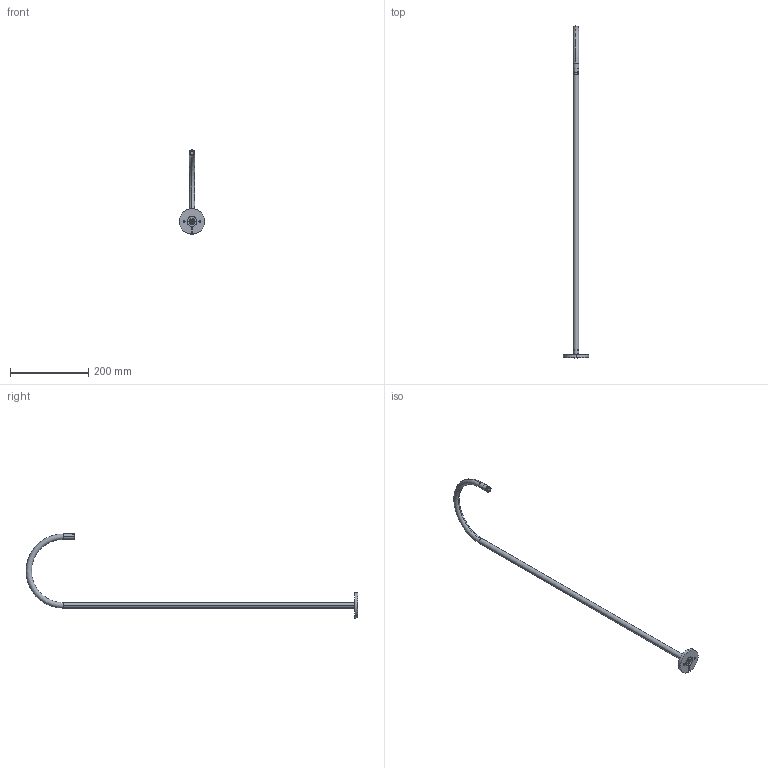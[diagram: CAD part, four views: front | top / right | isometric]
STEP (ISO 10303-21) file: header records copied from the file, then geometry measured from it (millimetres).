
FILE_DESCRIPTION (( 'STEP AP203' ), '1' );
FILE_NAME ('TWIG_85.STEP', '2026-04-27T12:14:38', ( '' ), ( '' ), 'SwSTEP 2.0', 'SolidWorks 2016', '' );
FILE_SCHEMA (( 'CONFIG_CONTROL_DESIGN' ));
Length unit declared in the file: millimetre
Products named in the file (5): 0-TWI-0005_0-00_BASE FISSA D.65 H.8mm FRES LAT_Forato; 0-TWI-0003-0-00_DIFFUSORE D.12 H.6.7mm M12x1 PC. TRASP_incassato; 0-TWI-0004-0-00_NIPPLO BASE M12x1 D.17 H.16.5; TWIG_85; 0-TWI-0001-0-26_TUBO d.14 down L=842mm_Down_750
Assembly tree (4 placements, depth 2):
  TWIG_85
    0-TWI-0001-0-26_TUBO d.14 down L=842mm_Down_750
    0-TWI-0005_0-00_BASE FISSA D.65 H.8mm FRES LAT_Forato
    0-TWI-0004-0-00_NIPPLO BASE M12x1 D.17 H.16.5
    0-TWI-0003-0-00_DIFFUSORE D.12 H.6.7mm M12x1 PC. TRASP_incassato
Bounding box: 65 x 850 x 215.5 mm (x, y, z)
Volume: 103244.5 mm3; surface area: 90384.2 mm2
Topology: 4 solids, 4 shells, 102 faces, 236 edges, 152 vertices
Faces by surface type: cylinder 55, plane 27, cone 16, torus 4
Entity records: 3495 total; most frequent: DIRECTION 594, CARTESIAN_POINT 497, ORIENTED_EDGE 472, AXIS2_PLACEMENT_3D 249, EDGE_CURVE 236, VERTEX_POINT 152, CIRCLE 140, EDGE_LOOP 122
